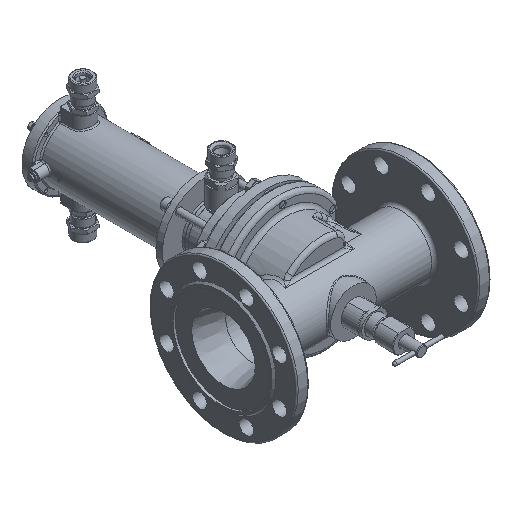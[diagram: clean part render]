
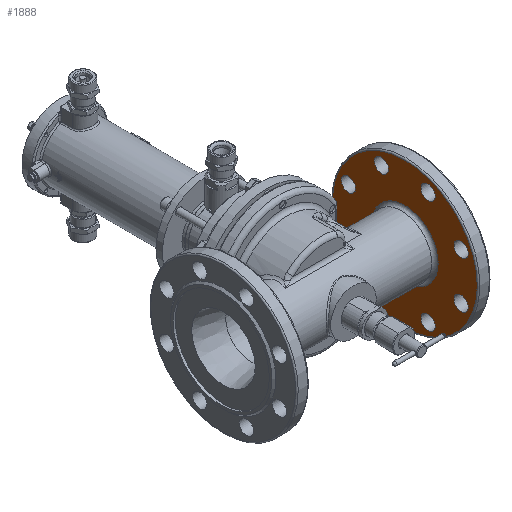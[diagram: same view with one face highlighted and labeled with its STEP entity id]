
A CAD part, isometric view. The second image highlights one B-rep face of the part: STEP entity #1888.
In plain terms, the highlighted planar face has unit normal (-1, 0, 0).
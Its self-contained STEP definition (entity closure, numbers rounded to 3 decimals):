
#1888=ADVANCED_FACE('',(#21700,#21702,#21704,#21706,#21708,#21710,#21712,#21714,
#21716,#21718),#21720,.T.);
#21700=FACE_BOUND('',#21701,.T.);
#21701=EDGE_LOOP('',(#34595));
#21702=FACE_BOUND('',#21703,.T.);
#21703=EDGE_LOOP('',(#34596));
#21704=FACE_BOUND('',#21705,.T.);
#21705=EDGE_LOOP('',(#34597));
#21706=FACE_BOUND('',#21707,.T.);
#21707=EDGE_LOOP('',(#34598));
#21708=FACE_BOUND('',#21709,.T.);
#21709=EDGE_LOOP('',(#34599));
#21710=FACE_BOUND('',#21711,.T.);
#21711=EDGE_LOOP('',(#34600));
#21712=FACE_BOUND('',#21713,.T.);
#21713=EDGE_LOOP('',(#34601));
#21714=FACE_BOUND('',#21715,.T.);
#21715=EDGE_LOOP('',(#34602));
#21716=FACE_BOUND('',#21717,.T.);
#21717=EDGE_LOOP('',(#34603));
#21718=FACE_OUTER_BOUND('',#21719,.T.);
#21719=EDGE_LOOP('',(#34604));
#21720=PLANE('',#21721);
#21721=AXIS2_PLACEMENT_3D('',#21722,#21723,#21724);
#21722=CARTESIAN_POINT('',(132.,0.,0.));
#21723=DIRECTION('',(-1.,0.,0.));
#21724=DIRECTION('',(0.,1.,0.));
#34595=ORIENTED_EDGE('',*,*,#43355,.F.);
#34596=ORIENTED_EDGE('',*,*,#43879,.T.);
#34597=ORIENTED_EDGE('',*,*,#43880,.T.);
#34598=ORIENTED_EDGE('',*,*,#43881,.T.);
#34599=ORIENTED_EDGE('',*,*,#43882,.T.);
#34600=ORIENTED_EDGE('',*,*,#43883,.T.);
#34601=ORIENTED_EDGE('',*,*,#43884,.T.);
#34602=ORIENTED_EDGE('',*,*,#43885,.T.);
#34603=ORIENTED_EDGE('',*,*,#43886,.T.);
#34604=ORIENTED_EDGE('',*,*,#43887,.T.);
#43355=EDGE_CURVE('',#51894,#51894,#51896,.T.);
#43879=EDGE_CURVE('',#52686,#52686,#52687,.T.);
#43880=EDGE_CURVE('',#52688,#52688,#52689,.T.);
#43881=EDGE_CURVE('',#52690,#52690,#52691,.T.);
#43882=EDGE_CURVE('',#52692,#52692,#52693,.T.);
#43883=EDGE_CURVE('',#52694,#52694,#52695,.T.);
#43884=EDGE_CURVE('',#52696,#52696,#52697,.T.);
#43885=EDGE_CURVE('',#52698,#52698,#52699,.T.);
#43886=EDGE_CURVE('',#52700,#52700,#52701,.T.);
#43887=EDGE_CURVE('',#52702,#52702,#52703,.T.);
#51894=VERTEX_POINT('',#80883);
#51896=CIRCLE('',#80888,52.);
#52686=VERTEX_POINT('',#83201);
#52687=CIRCLE('',#83202,11.);
#52688=VERTEX_POINT('',#83206);
#52689=CIRCLE('',#83207,11.);
#52690=VERTEX_POINT('',#83211);
#52691=CIRCLE('',#83212,11.);
#52692=VERTEX_POINT('',#83216);
#52693=CIRCLE('',#83217,11.);
#52694=VERTEX_POINT('',#83221);
#52695=CIRCLE('',#83222,11.);
#52696=VERTEX_POINT('',#83226);
#52697=CIRCLE('',#83227,11.);
#52698=VERTEX_POINT('',#83231);
#52699=CIRCLE('',#83232,11.);
#52700=VERTEX_POINT('',#83236);
#52701=CIRCLE('',#83237,11.);
#52702=VERTEX_POINT('',#83241);
#52703=CIRCLE('',#83242,113.);
#80883=CARTESIAN_POINT('',(132.,52.,0.));
#80888=AXIS2_PLACEMENT_3D('',#80889,#80890,#80891);
#80889=CARTESIAN_POINT('',(132.,0.,0.));
#80890=DIRECTION('',(-1.,0.,0.));
#80891=DIRECTION('',(0.,1.,0.));
#83201=CARTESIAN_POINT('',(132.,-36.355,-76.769));
#83202=AXIS2_PLACEMENT_3D('',#83203,#83204,#83205);
#83203=CARTESIAN_POINT('',(132.,-36.355,-87.769));
#83204=DIRECTION('',(1.,-0.,0.));
#83205=DIRECTION('',(0.,0.,1.));
#83206=CARTESIAN_POINT('',(132.,-36.355,98.769));
#83207=AXIS2_PLACEMENT_3D('',#83208,#83209,#83210);
#83208=CARTESIAN_POINT('',(132.,-36.355,87.769));
#83209=DIRECTION('',(1.,-0.,0.));
#83210=DIRECTION('',(0.,0.,1.));
#83211=CARTESIAN_POINT('',(132.,-87.769,47.355));
#83212=AXIS2_PLACEMENT_3D('',#83213,#83214,#83215);
#83213=CARTESIAN_POINT('',(132.,-87.769,36.355));
#83214=DIRECTION('',(1.,-0.,0.));
#83215=DIRECTION('',(0.,0.,1.));
#83216=CARTESIAN_POINT('',(132.,-87.769,-25.355));
#83217=AXIS2_PLACEMENT_3D('',#83218,#83219,#83220);
#83218=CARTESIAN_POINT('',(132.,-87.769,-36.355));
#83219=DIRECTION('',(1.,-0.,0.));
#83220=DIRECTION('',(0.,0.,1.));
#83221=CARTESIAN_POINT('',(132.,36.355,-76.769));
#83222=AXIS2_PLACEMENT_3D('',#83223,#83224,#83225);
#83223=CARTESIAN_POINT('',(132.,36.355,-87.769));
#83224=DIRECTION('',(1.,-0.,0.));
#83225=DIRECTION('',(0.,0.,1.));
#83226=CARTESIAN_POINT('',(132.,36.355,98.769));
#83227=AXIS2_PLACEMENT_3D('',#83228,#83229,#83230);
#83228=CARTESIAN_POINT('',(132.,36.355,87.769));
#83229=DIRECTION('',(1.,-0.,0.));
#83230=DIRECTION('',(0.,0.,1.));
#83231=CARTESIAN_POINT('',(132.,87.769,47.355));
#83232=AXIS2_PLACEMENT_3D('',#83233,#83234,#83235);
#83233=CARTESIAN_POINT('',(132.,87.769,36.355));
#83234=DIRECTION('',(1.,-0.,0.));
#83235=DIRECTION('',(0.,0.,1.));
#83236=CARTESIAN_POINT('',(132.,87.769,-25.355));
#83237=AXIS2_PLACEMENT_3D('',#83238,#83239,#83240);
#83238=CARTESIAN_POINT('',(132.,87.769,-36.355));
#83239=DIRECTION('',(1.,-0.,0.));
#83240=DIRECTION('',(0.,0.,1.));
#83241=CARTESIAN_POINT('',(132.,113.,0.));
#83242=AXIS2_PLACEMENT_3D('',#83243,#83244,#83245);
#83243=CARTESIAN_POINT('',(132.,0.,0.));
#83244=DIRECTION('',(-1.,0.,0.));
#83245=DIRECTION('',(0.,1.,0.));
